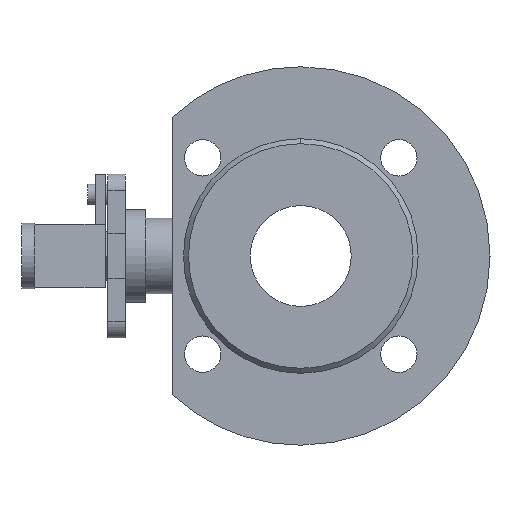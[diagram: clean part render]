
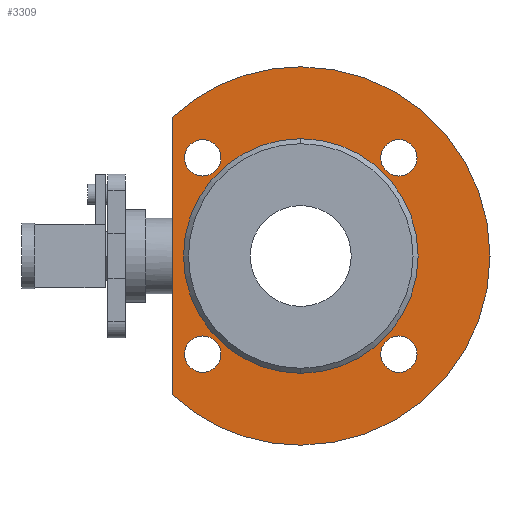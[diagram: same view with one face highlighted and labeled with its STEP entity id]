
A CAD part, left-side view. The second image highlights one B-rep face of the part: STEP entity #3309.
In plain terms, the highlighted planar face has unit normal (-1, 0, 0).
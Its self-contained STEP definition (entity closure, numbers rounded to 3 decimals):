
#7 = DIRECTION ( 'NONE',  ( -1., 0., 0. ) ) ;
#14 = EDGE_CURVE ( 'NONE', #261, #1095, #110, .T. ) ;
#27 = DIRECTION ( 'NONE',  ( 0., 0., 1. ) ) ;
#38 = AXIS2_PLACEMENT_3D ( 'NONE', #2326, #460, #2642 ) ;
#96 = DIRECTION ( 'NONE',  ( 0., 0., -1. ) ) ;
#110 = CIRCLE ( 'NONE', #2596, 7.2 ) ;
#111 = DIRECTION ( 'NONE',  ( -1., 0., 0. ) ) ;
#167 = EDGE_CURVE ( 'NONE', #2255, #2193, #3551, .T. ) ;
#216 = VECTOR ( 'NONE', #96, 1000. ) ;
#220 = DIRECTION ( 'NONE',  ( -1., 0., 0. ) ) ;
#261 = VERTEX_POINT ( 'NONE', #2329 ) ;
#270 = CIRCLE ( 'NONE', #2566, 7.2 ) ;
#280 = AXIS2_PLACEMENT_3D ( 'NONE', #1975, #111, #2285 ) ;
#281 = EDGE_CURVE ( 'NONE', #2427, #2142, #2345, .T. ) ;
#282 = CARTESIAN_POINT ( 'NONE',  ( -30.5, 38.891, -38.891 ) ) ;
#287 = CIRCLE ( 'NONE', #660, 7.2 ) ;
#300 = AXIS2_PLACEMENT_3D ( 'NONE', #699, #2883, #1018 ) ;
#383 = CARTESIAN_POINT ( 'NONE',  ( -30.5, -38.891, 38.891 ) ) ;
#424 = CARTESIAN_POINT ( 'NONE',  ( -30.5, 0., 0. ) ) ;
#458 = AXIS2_PLACEMENT_3D ( 'NONE', #2462, #590, #2778 ) ;
#460 = DIRECTION ( 'NONE',  ( -1., 0., 0. ) ) ;
#482 = ORIENTED_EDGE ( 'NONE', *, *, #281, .F. ) ;
#584 = FACE_BOUND ( 'NONE', #3608, .T. ) ;
#589 = DIRECTION ( 'NONE',  ( 0., 1., 0. ) ) ;
#590 = DIRECTION ( 'NONE',  ( -1., 0., 0. ) ) ;
#646 = ORIENTED_EDGE ( 'NONE', *, *, #2404, .F. ) ;
#660 = AXIS2_PLACEMENT_3D ( 'NONE', #383, #2565, #692 ) ;
#685 = FACE_BOUND ( 'NONE', #3763, .T. ) ;
#692 = DIRECTION ( 'NONE',  ( 0., -1., 0. ) ) ;
#699 = CARTESIAN_POINT ( 'NONE',  ( -30.5, 38.891, 38.891 ) ) ;
#700 = ORIENTED_EDGE ( 'NONE', *, *, #2662, .T. ) ;
#709 = EDGE_CURVE ( 'NONE', #3906, #3888, #2343, .T. ) ;
#741 = DIRECTION ( 'NONE',  ( 0., 0., 1. ) ) ;
#783 = DIRECTION ( 'NONE',  ( -1., 0., 0. ) ) ;
#797 = VERTEX_POINT ( 'NONE', #1725 ) ;
#800 = ORIENTED_EDGE ( 'NONE', *, *, #1197, .F. ) ;
#896 = VERTEX_POINT ( 'NONE', #1140 ) ;
#905 = EDGE_CURVE ( 'NONE', #2142, #2427, #3110, .T. ) ;
#931 = CARTESIAN_POINT ( 'NONE',  ( -30.5, 51., 54.991 ) ) ;
#1010 = AXIS2_PLACEMENT_3D ( 'NONE', #2951, #1080, #3265 ) ;
#1015 = AXIS2_PLACEMENT_3D ( 'NONE', #1322, #3490, #1633 ) ;
#1018 = DIRECTION ( 'NONE',  ( 0., 0., 1. ) ) ;
#1020 = CARTESIAN_POINT ( 'NONE',  ( -30.5, 51., 0. ) ) ;
#1080 = DIRECTION ( 'NONE',  ( -1., 0., 0. ) ) ;
#1095 = VERTEX_POINT ( 'NONE', #2807 ) ;
#1114 = ORIENTED_EDGE ( 'NONE', *, *, #3149, .F. ) ;
#1140 = CARTESIAN_POINT ( 'NONE',  ( -30.5, -38.891, 46.091 ) ) ;
#1197 = EDGE_CURVE ( 'NONE', #896, #3916, #287, .T. ) ;
#1199 = ORIENTED_EDGE ( 'NONE', *, *, #2682, .T. ) ;
#1222 = CARTESIAN_POINT ( 'NONE',  ( -30.5, 38.891, 31.691 ) ) ;
#1322 = CARTESIAN_POINT ( 'NONE',  ( -30.5, 75., 0. ) ) ;
#1422 = FACE_BOUND ( 'NONE', #1454, .T. ) ;
#1454 = EDGE_LOOP ( 'NONE', ( #3095, #482 ) ) ;
#1483 = EDGE_CURVE ( 'NONE', #3888, #3906, #3487, .T. ) ;
#1517 = CARTESIAN_POINT ( 'NONE',  ( -30.5, -38.891, 38.891 ) ) ;
#1633 = DIRECTION ( 'NONE',  ( 0., 0., -1. ) ) ;
#1692 = ORIENTED_EDGE ( 'NONE', *, *, #2395, .F. ) ;
#1725 = CARTESIAN_POINT ( 'NONE',  ( -30.5, 0., 75. ) ) ;
#1831 = DIRECTION ( 'NONE',  ( 0., -1., 0. ) ) ;
#1841 = CARTESIAN_POINT ( 'NONE',  ( -30.5, -38.891, -46.091 ) ) ;
#1858 = AXIS2_PLACEMENT_3D ( 'NONE', #3729, #1886, #27 ) ;
#1872 = CARTESIAN_POINT ( 'NONE',  ( -30.5, 38.891, -38.891 ) ) ;
#1877 = CARTESIAN_POINT ( 'NONE',  ( -30.5, 0., -46.5 ) ) ;
#1886 = DIRECTION ( 'NONE',  ( -1., 0., 0. ) ) ;
#1891 = CARTESIAN_POINT ( 'NONE',  ( -30.5, 0., 46.5 ) ) ;
#1905 = CARTESIAN_POINT ( 'NONE',  ( -30.5, -38.891, 31.691 ) ) ;
#1916 = ORIENTED_EDGE ( 'NONE', *, *, #1483, .F. ) ;
#1927 = CIRCLE ( 'NONE', #2136, 7.2 ) ;
#1975 = CARTESIAN_POINT ( 'NONE',  ( -30.5, 0., 0. ) ) ;
#2009 = ORIENTED_EDGE ( 'NONE', *, *, #14, .F. ) ;
#2016 = CARTESIAN_POINT ( 'NONE',  ( -30.5, -38.891, -31.691 ) ) ;
#2062 = CARTESIAN_POINT ( 'NONE',  ( -30.5, 51., -54.991 ) ) ;
#2082 = CARTESIAN_POINT ( 'NONE',  ( -30.5, -38.891, -38.891 ) ) ;
#2136 = AXIS2_PLACEMENT_3D ( 'NONE', #1517, #3670, #1831 ) ;
#2142 = VERTEX_POINT ( 'NONE', #2016 ) ;
#2150 = AXIS2_PLACEMENT_3D ( 'NONE', #2659, #783, #2970 ) ;
#2178 = DIRECTION ( 'NONE',  ( 0., 1., 0. ) ) ;
#2193 = VERTEX_POINT ( 'NONE', #3285 ) ;
#2243 = FACE_BOUND ( 'NONE', #3539, .T. ) ;
#2255 = VERTEX_POINT ( 'NONE', #2062 ) ;
#2285 = DIRECTION ( 'NONE',  ( 0., 0., 1. ) ) ;
#2326 = CARTESIAN_POINT ( 'NONE',  ( -30.5, 0., 0. ) ) ;
#2329 = CARTESIAN_POINT ( 'NONE',  ( -30.5, 38.891, -31.691 ) ) ;
#2343 = CIRCLE ( 'NONE', #3534, 46.5 ) ;
#2345 = CIRCLE ( 'NONE', #2150, 7.2 ) ;
#2395 = EDGE_CURVE ( 'NONE', #3916, #896, #1927, .T. ) ;
#2403 = DIRECTION ( 'NONE',  ( 0., 0., -1. ) ) ;
#2404 = EDGE_CURVE ( 'NONE', #1095, #261, #270, .T. ) ;
#2422 = VERTEX_POINT ( 'NONE', #1222 ) ;
#2427 = VERTEX_POINT ( 'NONE', #1841 ) ;
#2449 = EDGE_LOOP ( 'NONE', ( #3467, #3079, #1199, #700 ) ) ;
#2460 = DIRECTION ( 'NONE',  ( -1., 0., 0. ) ) ;
#2462 = CARTESIAN_POINT ( 'NONE',  ( -30.5, 38.891, 38.891 ) ) ;
#2513 = VERTEX_POINT ( 'NONE', #931 ) ;
#2565 = DIRECTION ( 'NONE',  ( -1., 0., 0. ) ) ;
#2566 = AXIS2_PLACEMENT_3D ( 'NONE', #282, #2460, #589 ) ;
#2596 = AXIS2_PLACEMENT_3D ( 'NONE', #1872, #7, #2178 ) ;
#2609 = CIRCLE ( 'NONE', #1858, 75. ) ;
#2611 = DIRECTION ( 'NONE',  ( -1., 0., 0. ) ) ;
#2642 = DIRECTION ( 'NONE',  ( 0., 0., 1. ) ) ;
#2659 = CARTESIAN_POINT ( 'NONE',  ( -30.5, -38.891, -38.891 ) ) ;
#2660 = VERTEX_POINT ( 'NONE', #3500 ) ;
#2662 = EDGE_CURVE ( 'NONE', #2513, #2255, #2713, .T. ) ;
#2682 = EDGE_CURVE ( 'NONE', #797, #2513, #2609, .T. ) ;
#2713 = LINE ( 'NONE', #1020, #216 ) ;
#2747 = ORIENTED_EDGE ( 'NONE', *, *, #3974, .F. ) ;
#2778 = DIRECTION ( 'NONE',  ( 0., 0., 1. ) ) ;
#2807 = CARTESIAN_POINT ( 'NONE',  ( -30.5, 38.891, -46.091 ) ) ;
#2830 = CIRCLE ( 'NONE', #458, 7.2 ) ;
#2883 = DIRECTION ( 'NONE',  ( -1., 0., 0. ) ) ;
#2951 = CARTESIAN_POINT ( 'NONE',  ( -30.5, 0., 0. ) ) ;
#2970 = DIRECTION ( 'NONE',  ( 0., 0., -1. ) ) ;
#3018 = CIRCLE ( 'NONE', #300, 7.2 ) ;
#3056 = ORIENTED_EDGE ( 'NONE', *, *, #709, .F. ) ;
#3079 = ORIENTED_EDGE ( 'NONE', *, *, #3492, .T. ) ;
#3095 = ORIENTED_EDGE ( 'NONE', *, *, #905, .F. ) ;
#3110 = CIRCLE ( 'NONE', #3707, 7.2 ) ;
#3115 = CIRCLE ( 'NONE', #38, 75. ) ;
#3149 = EDGE_CURVE ( 'NONE', #2660, #2422, #2830, .T. ) ;
#3186 = PLANE ( 'NONE',  #1015 ) ;
#3265 = DIRECTION ( 'NONE',  ( 0., 0., 1. ) ) ;
#3285 = CARTESIAN_POINT ( 'NONE',  ( -30.5, 0., -75. ) ) ;
#3309 = ADVANCED_FACE ( 'NONE', ( #3976, #1422, #2243, #685, #584, #3884 ), #3186, .F. ) ;
#3467 = ORIENTED_EDGE ( 'NONE', *, *, #167, .T. ) ;
#3487 = CIRCLE ( 'NONE', #1010, 46.5 ) ;
#3490 = DIRECTION ( 'NONE',  ( 1., 0., 0. ) ) ;
#3492 = EDGE_CURVE ( 'NONE', #2193, #797, #3115, .T. ) ;
#3500 = CARTESIAN_POINT ( 'NONE',  ( -30.5, 38.891, 46.091 ) ) ;
#3534 = AXIS2_PLACEMENT_3D ( 'NONE', #424, #2611, #741 ) ;
#3539 = EDGE_LOOP ( 'NONE', ( #2009, #646 ) ) ;
#3551 = CIRCLE ( 'NONE', #280, 75. ) ;
#3608 = EDGE_LOOP ( 'NONE', ( #1916, #3056 ) ) ;
#3670 = DIRECTION ( 'NONE',  ( -1., 0., 0. ) ) ;
#3707 = AXIS2_PLACEMENT_3D ( 'NONE', #2082, #220, #2403 ) ;
#3729 = CARTESIAN_POINT ( 'NONE',  ( -30.5, 0., 0. ) ) ;
#3763 = EDGE_LOOP ( 'NONE', ( #1114, #2747 ) ) ;
#3884 = FACE_OUTER_BOUND ( 'NONE', #2449, .T. ) ;
#3888 = VERTEX_POINT ( 'NONE', #1877 ) ;
#3906 = VERTEX_POINT ( 'NONE', #1891 ) ;
#3916 = VERTEX_POINT ( 'NONE', #1905 ) ;
#3974 = EDGE_CURVE ( 'NONE', #2422, #2660, #3018, .T. ) ;
#3976 = FACE_BOUND ( 'NONE', #4005, .T. ) ;
#4005 = EDGE_LOOP ( 'NONE', ( #800, #1692 ) ) ;
